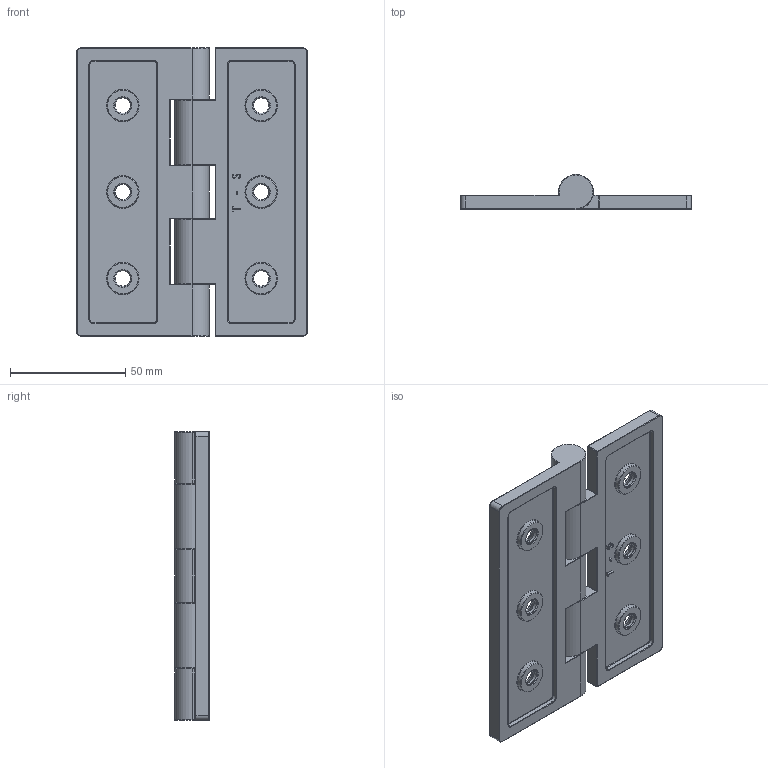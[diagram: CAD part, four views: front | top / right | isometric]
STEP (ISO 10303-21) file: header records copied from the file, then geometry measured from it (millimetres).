
FILE_DESCRIPTION (( 'STEP AP203' ), '1' );
FILE_NAME ('CLS-200-A.STEP', '2016-10-20T03:22:58', ( '' ), ( '' ), 'SwSTEP 2.0', 'SolidWorks 2010', '' );
FILE_SCHEMA (( 'CONFIG_CONTROL_DESIGN' ));
Length unit declared in the file: millimetre
Products named in the file (4): 鉸鏈片(3); 鉸鏈片(2); CLS-200-A; 插銷
Assembly tree (3 placements, depth 2):
  CLS-200-A
    鉸鏈片(2)
    鉸鏈片(3)
    插銷
Bounding box: 100 x 15 x 125 mm (x, y, z)
Volume: 70134.1 mm3; surface area: 39060.7 mm2
Topology: 3 solids, 3 shells, 424 faces, 944 edges, 535 vertices
Faces by surface type: torus 169, cylinder 147, plane 65, cone 24, bspline 15, sphere 4
Entity records: 13152 total; most frequent: CARTESIAN_POINT 3042, DIRECTION 2326, ORIENTED_EDGE 1880, AXIS2_PLACEMENT_3D 1001, EDGE_CURVE 940, CIRCLE 586, VERTEX_POINT 535, EDGE_LOOP 455
